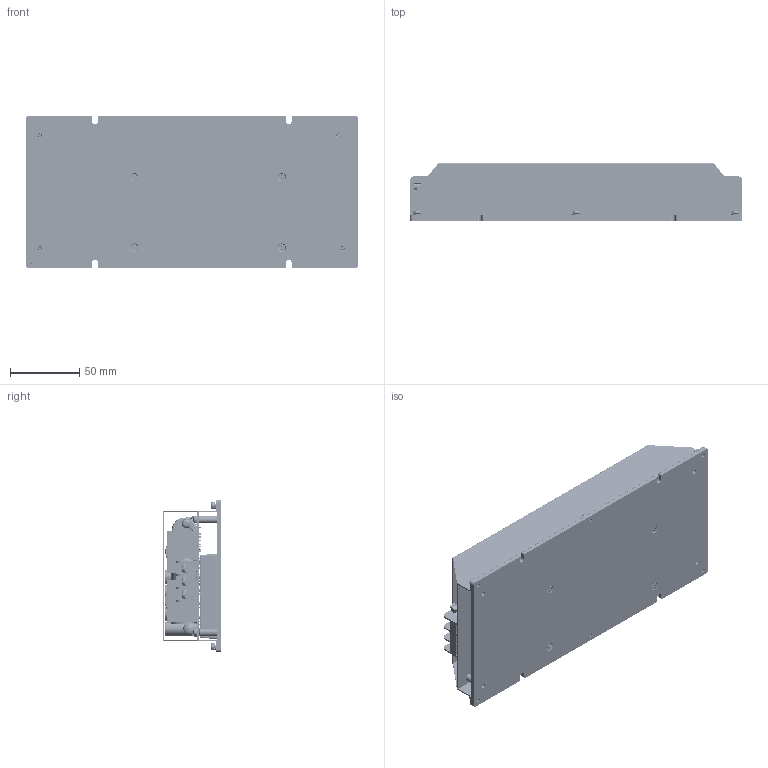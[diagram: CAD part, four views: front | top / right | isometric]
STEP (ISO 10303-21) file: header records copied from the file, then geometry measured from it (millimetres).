
FILE_DESCRIPTION (( 'STEP AP214' ), '1' );
FILE_NAME ('PDF700S CMFD.STEP', '2023-12-27T09:42:57', ( 'cincon' ), ( '' ), 'SwSTEP 2.0', 'SolidWorks 2020', '' );
FILE_SCHEMA (( 'AUTOMOTIVE_DESIGN' ));
Length unit declared in the file: millimetre
Products named in the file (1): PDF700S CMFD
Bounding box: 240.04 x 42 x 110 mm (x, y, z)
Volume: 364747 mm3; surface area: 243458.5 mm2
Topology: 70 solids, 85 shells, 5763 faces, 16028 edges, 10498 vertices
Faces by surface type: plane 2277, cylinder 1985, torus 685, bspline 526, cone 274, sphere 16
Entity records: 361941 total; most frequent: CARTESIAN_POINT 156447, ORIENTED_EDGE 31976, DIRECTION 27589, EDGE_CURVE 15988, VERTEX_POINT 10486, AXIS2_PLACEMENT_3D 10304, LINE 6981, VECTOR 6981
